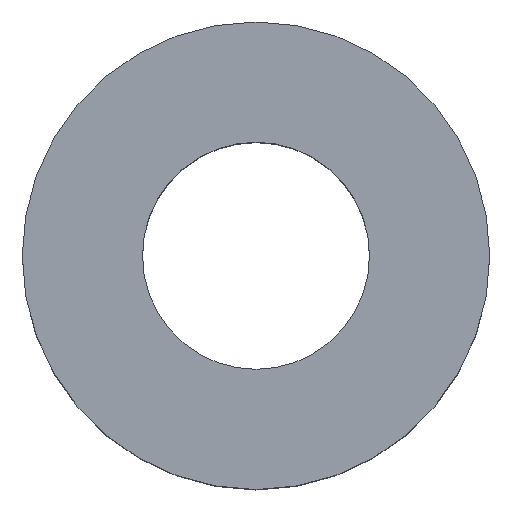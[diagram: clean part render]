
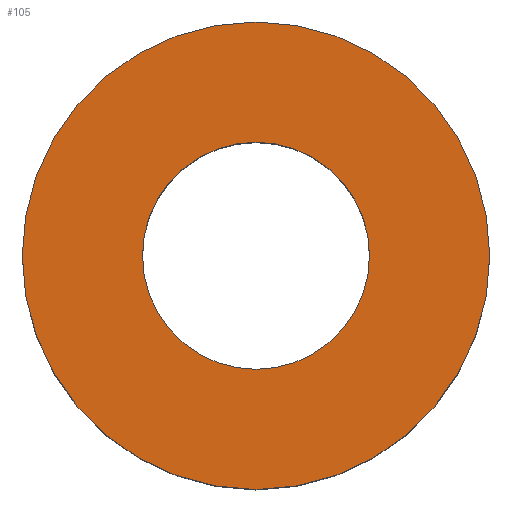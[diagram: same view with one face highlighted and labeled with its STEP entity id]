
A CAD part, top view. The second image highlights one B-rep face of the part: STEP entity #105.
In plain terms, the highlighted planar face has unit normal (0, 0, 1).
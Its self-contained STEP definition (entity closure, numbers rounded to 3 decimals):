
#21 = EDGE_CURVE('',#22,#22,#24,.T.);
#22 = VERTEX_POINT('',#23);
#23 = CARTESIAN_POINT('',(3.5,0.,4.));
#24 = SURFACE_CURVE('',#25,(#30,#42),.PCURVE_S1.);
#25 = CIRCLE('',#26,3.5);
#26 = AXIS2_PLACEMENT_3D('',#27,#28,#29);
#27 = CARTESIAN_POINT('',(0.,0.,4.));
#28 = DIRECTION('',(0.,0.,1.));
#29 = DIRECTION('',(1.,0.,-0.));
#30 = PCURVE('',#31,#36);
#31 = CYLINDRICAL_SURFACE('',#32,3.5);
#32 = AXIS2_PLACEMENT_3D('',#33,#34,#35);
#33 = CARTESIAN_POINT('',(0.,0.,0.));
#34 = DIRECTION('',(0.,0.,1.));
#35 = DIRECTION('',(1.,0.,-0.));
#36 = DEFINITIONAL_REPRESENTATION('',(#37),#41);
#37 = LINE('',#38,#39);
#38 = CARTESIAN_POINT('',(0.,4.));
#39 = VECTOR('',#40,1.);
#40 = DIRECTION('',(1.,0.));
#41 = ( GEOMETRIC_REPRESENTATION_CONTEXT(2) 
PARAMETRIC_REPRESENTATION_CONTEXT() REPRESENTATION_CONTEXT('2D SPACE',''
  ) );
#42 = PCURVE('',#43,#48);
#43 = PLANE('',#44);
#44 = AXIS2_PLACEMENT_3D('',#45,#46,#47);
#45 = CARTESIAN_POINT('',(0.,0.,4.));
#46 = DIRECTION('',(0.,0.,1.));
#47 = DIRECTION('',(1.,0.,-0.));
#48 = DEFINITIONAL_REPRESENTATION('',(#49),#53);
#49 = CIRCLE('',#50,3.5);
#50 = AXIS2_PLACEMENT_2D('',#51,#52);
#51 = CARTESIAN_POINT('',(0.,0.));
#52 = DIRECTION('',(1.,0.));
#53 = ( GEOMETRIC_REPRESENTATION_CONTEXT(2) 
PARAMETRIC_REPRESENTATION_CONTEXT() REPRESENTATION_CONTEXT('2D SPACE',''
  ) );
#105 = ADVANCED_FACE('',(#106,#109),#43,.T.);
#106 = FACE_BOUND('',#107,.T.);
#107 = EDGE_LOOP('',(#108));
#108 = ORIENTED_EDGE('',*,*,#21,.T.);
#109 = FACE_BOUND('',#110,.T.);
#110 = EDGE_LOOP('',(#111));
#111 = ORIENTED_EDGE('',*,*,#112,.F.);
#112 = EDGE_CURVE('',#113,#113,#115,.T.);
#113 = VERTEX_POINT('',#114);
#114 = CARTESIAN_POINT('',(1.7,0.,4.));
#115 = SURFACE_CURVE('',#116,(#121,#128),.PCURVE_S1.);
#116 = CIRCLE('',#117,1.7);
#117 = AXIS2_PLACEMENT_3D('',#118,#119,#120);
#118 = CARTESIAN_POINT('',(0.,0.,4.));
#119 = DIRECTION('',(0.,0.,1.));
#120 = DIRECTION('',(1.,0.,-0.));
#121 = PCURVE('',#43,#122);
#122 = DEFINITIONAL_REPRESENTATION('',(#123),#127);
#123 = CIRCLE('',#124,1.7);
#124 = AXIS2_PLACEMENT_2D('',#125,#126);
#125 = CARTESIAN_POINT('',(0.,0.));
#126 = DIRECTION('',(1.,0.));
#127 = ( GEOMETRIC_REPRESENTATION_CONTEXT(2) 
PARAMETRIC_REPRESENTATION_CONTEXT() REPRESENTATION_CONTEXT('2D SPACE',''
  ) );
#128 = PCURVE('',#129,#134);
#129 = CYLINDRICAL_SURFACE('',#130,1.7);
#130 = AXIS2_PLACEMENT_3D('',#131,#132,#133);
#131 = CARTESIAN_POINT('',(0.,0.,-1.));
#132 = DIRECTION('',(0.,0.,1.));
#133 = DIRECTION('',(1.,0.,-0.));
#134 = DEFINITIONAL_REPRESENTATION('',(#135),#139);
#135 = LINE('',#136,#137);
#136 = CARTESIAN_POINT('',(0.,5.));
#137 = VECTOR('',#138,1.);
#138 = DIRECTION('',(1.,0.));
#139 = ( GEOMETRIC_REPRESENTATION_CONTEXT(2) 
PARAMETRIC_REPRESENTATION_CONTEXT() REPRESENTATION_CONTEXT('2D SPACE',''
  ) );
